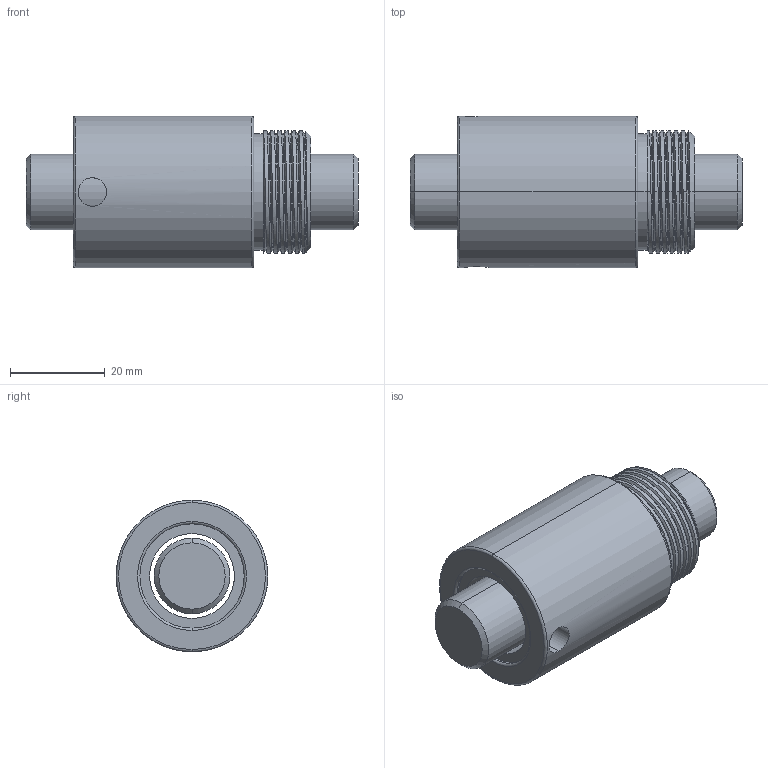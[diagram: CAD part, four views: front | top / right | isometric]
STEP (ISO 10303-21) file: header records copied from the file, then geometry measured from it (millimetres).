
FILE_DESCRIPTION (( 'STEP AP203' ), '1' );
FILE_NAME ('BSHR01610T2-C.STEP', '2020-06-17T06:59:13', ( '' ), ( '' ), 'SwSTEP 2.0', 'SolidWorks 2013', '' );
FILE_SCHEMA (( 'CONFIG_CONTROL_DESIGN' ));
Length unit declared in the file: millimetre
Products named in the file (1): BSHR01610T2-C
Bounding box: 70 x 32 x 32 mm (x, y, z)
Volume: 37488.2 mm3; surface area: 12924.4 mm2
Topology: 2 solids, 2 shells, 69 faces, 168 edges, 106 vertices
Faces by surface type: cylinder 43, torus 8, cone 8, plane 8, bspline 2
Entity records: 3092 total; most frequent: CARTESIAN_POINT 1535, ORIENTED_EDGE 332, DIRECTION 293, EDGE_CURVE 166, AXIS2_PLACEMENT_3D 122, VERTEX_POINT 106, EDGE_LOOP 78, FACE_OUTER_BOUND 69
